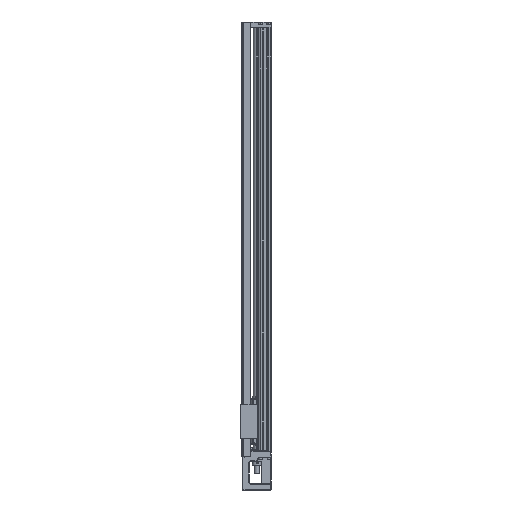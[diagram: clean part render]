
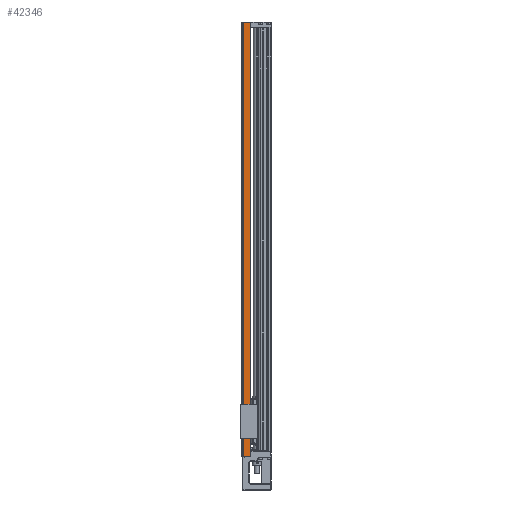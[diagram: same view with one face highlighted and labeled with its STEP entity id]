
A CAD part, left-side view. The second image highlights one B-rep face of the part: STEP entity #42346.
In plain terms, the highlighted planar face has unit normal (-1, 0, 0).
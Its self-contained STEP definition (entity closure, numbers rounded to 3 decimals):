
#3462 = FACE_OUTER_BOUND ( 'NONE', #62724, .T. ) ;
#6495 = VERTEX_POINT ( 'NONE', #74047 ) ;
#7242 = CARTESIAN_POINT ( 'NONE',  ( 2.231, 14.294, 483. ) ) ;
#10864 = VERTEX_POINT ( 'NONE', #18485 ) ;
#12061 = LINE ( 'NONE', #34300, #71972 ) ;
#13455 = LINE ( 'NONE', #7242, #45662 ) ;
#13951 = DIRECTION ( 'NONE',  ( 0., 0., 1. ) ) ;
#17186 = DIRECTION ( 'NONE',  ( 0., 0., -1. ) ) ;
#17556 = LINE ( 'NONE', #60115, #27335 ) ;
#18485 = CARTESIAN_POINT ( 'NONE',  ( 2.231, 17.794, 483. ) ) ;
#18548 = VERTEX_POINT ( 'NONE', #73087 ) ;
#19775 = CARTESIAN_POINT ( 'NONE',  ( 2.231, 17.794, 483. ) ) ;
#24383 = CARTESIAN_POINT ( 'NONE',  ( 2.231, 17.794, 483. ) ) ;
#27335 = VECTOR ( 'NONE', #17186, 1000. ) ;
#31156 = EDGE_CURVE ( 'NONE', #39415, #18548, #17556, .T. ) ;
#34300 = CARTESIAN_POINT ( 'NONE',  ( 2.231, 14.294, -483. ) ) ;
#34565 = PLANE ( 'NONE',  #58606 ) ;
#37769 = LINE ( 'NONE', #19775, #74913 ) ;
#39415 = VERTEX_POINT ( 'NONE', #52226 ) ;
#40208 = ORIENTED_EDGE ( 'NONE', *, *, #31156, .F. ) ;
#42346 = ADVANCED_FACE ( 'NONE', ( #3462 ), #34565, .F. ) ;
#45662 = VECTOR ( 'NONE', #72401, 1000. ) ;
#47831 = DIRECTION ( 'NONE',  ( 1., 0., 0. ) ) ;
#48230 = DIRECTION ( 'NONE',  ( 0., -1., 0. ) ) ;
#52226 = CARTESIAN_POINT ( 'NONE',  ( 2.231, 1.294, 483. ) ) ;
#54087 = EDGE_CURVE ( 'NONE', #6495, #10864, #37769, .T. ) ;
#55553 = ORIENTED_EDGE ( 'NONE', *, *, #54087, .F. ) ;
#58152 = DIRECTION ( 'NONE',  ( 0., -1., 0. ) ) ;
#58606 = AXIS2_PLACEMENT_3D ( 'NONE', #24383, #47831, #48230 ) ;
#58790 = ORIENTED_EDGE ( 'NONE', *, *, #70807, .F. ) ;
#60115 = CARTESIAN_POINT ( 'NONE',  ( 2.231, 1.294, 483. ) ) ;
#62724 = EDGE_LOOP ( 'NONE', ( #58790, #55553, #73781, #40208 ) ) ;
#70807 = EDGE_CURVE ( 'NONE', #10864, #39415, #13455, .T. ) ;
#71972 = VECTOR ( 'NONE', #58152, 1000. ) ;
#72401 = DIRECTION ( 'NONE',  ( 0., -1., 0. ) ) ;
#72535 = EDGE_CURVE ( 'NONE', #6495, #18548, #12061, .T. ) ;
#73087 = CARTESIAN_POINT ( 'NONE',  ( 2.231, 1.294, -483. ) ) ;
#73781 = ORIENTED_EDGE ( 'NONE', *, *, #72535, .T. ) ;
#74047 = CARTESIAN_POINT ( 'NONE',  ( 2.231, 17.794, -483. ) ) ;
#74913 = VECTOR ( 'NONE', #13951, 1000. ) ;
